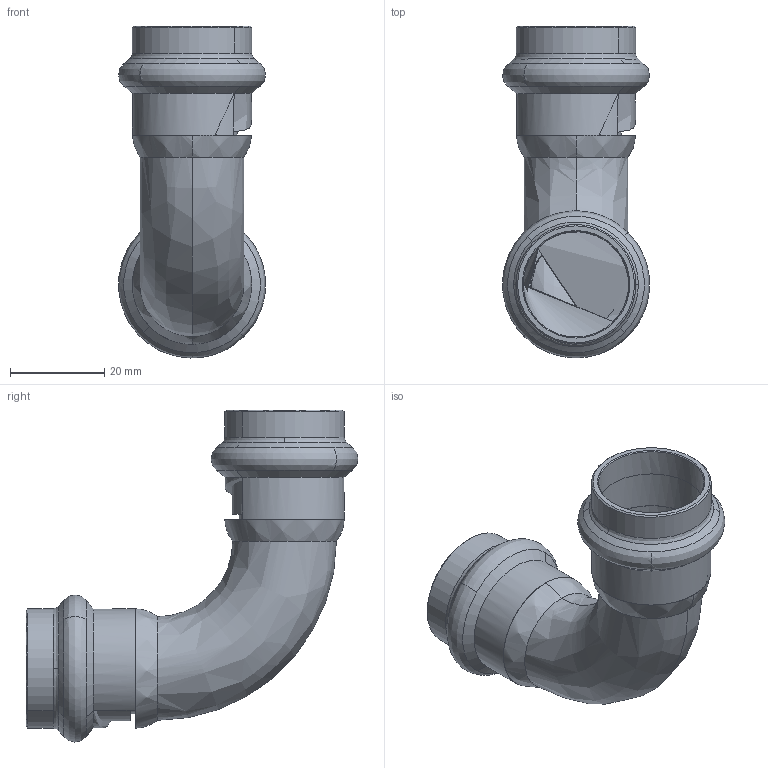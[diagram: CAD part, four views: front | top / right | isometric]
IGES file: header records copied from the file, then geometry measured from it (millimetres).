
Start section: Elysium IGES Interface
Global section: file name: C:\3d modellen sudo\C-Pr VP\SP8002V\8002VW22.igs; native system: CoCreate Modeling 17.00A  17-Jun-2010; preprocessor: CoCreate IGES_3D V2.2; author: Unknown; organization: Unknown; date: 20130129.134451; units: millimetre
Bounding box: 31.19 x 70.43 x 70.44 mm (x, y, z)
Volume: 13036.3 mm3; surface area: 14936.6 mm2
Topology: 1 solids, 1 shells, 80 faces, 200 edges, 126 vertices
Faces by surface type: bspline 80
